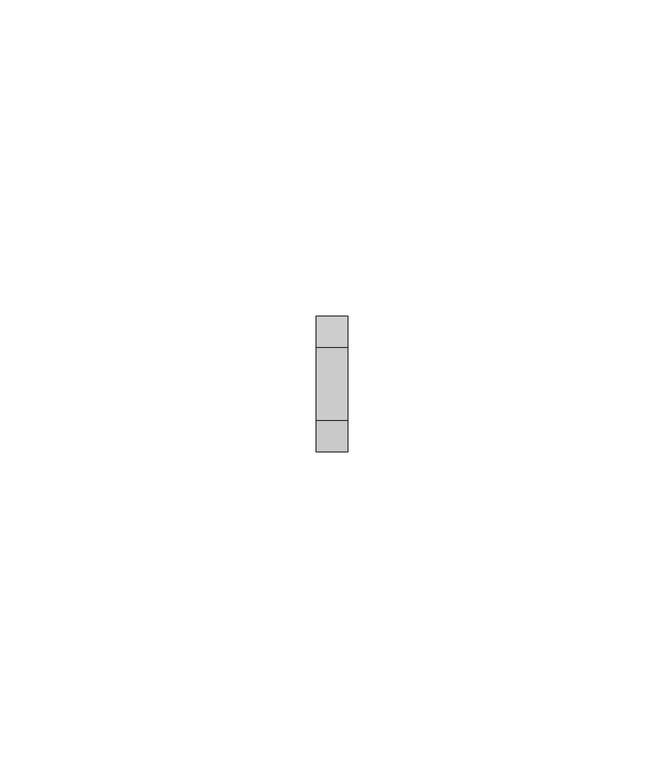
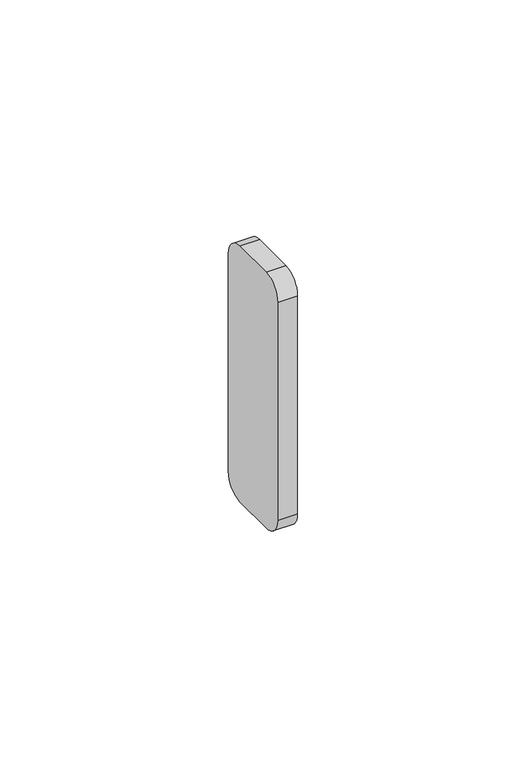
"""IFC4 building model written with IfcOpenShell, lengths in millimetres: proxy geometry, Odbojniki - OPW20R : Odbojniki - OPW20R."""

from ifc_helpers import new_model, si_unit, point, frame, frame_2d, origin, place, context, project, spatial, polyline, circle_curve, trimmed, segment, composite_curve, outline, extrude, source, transform, mapped, element, save


def generic_models_18d6be8e(model_context):
    return source(origin(), model_context, "Body", "SweptSolid", [
        extrude(outline(composite_curve([segment(polyline([(70.3, -44.25), (58.8, -44.25)]), True, "CONTINUOUS"), segment(trimmed(circle_curve(frame_2d((58.8, -39.25)), 5.0), [point((58.8, -44.25))], [point((53.8, -39.25))], False, "CARTESIAN"), True, "CONTINUOUS"), segment(polyline([(53.8, -39.25), (53.8, 19.05)]), True, "CONTINUOUS"), segment(trimmed(circle_curve(frame_2d((58.8, 19.05)), 5.0), [point((53.8, 19.05))], [point((58.8, 24.05))], False, "CARTESIAN"), True, "CONTINUOUS"), segment(polyline([(58.8, 24.05), (70.3, 24.05)]), True, "CONTINUOUS"), segment(trimmed(circle_curve(frame_2d((70.3, 19.05)), 5.0), [point((70.3, 24.05))], [point((75.3, 19.05))], False, "CARTESIAN"), True, "CONTINUOUS"), segment(polyline([(75.3, 19.05), (75.3, -39.25)]), True, "CONTINUOUS"), segment(trimmed(circle_curve(frame_2d((70.3, -39.25)), 5.0), [point((75.3, -39.25))], [point((70.3, -44.25))], False, "CARTESIAN"), True, "CONTINUOUS")], self_intersect=False)), frame((-2.5, 0.0, 0.0), z_axis=(1.0, 0.0, 0.0), x_axis=(0.0, 1.0, 0.0)), (0.0, 0.0, 1.0), 5.0),
    ])


if __name__ == "__main__":
    model = new_model("IFC4")
    model_context = context("Model", 3, world=origin())
    ifc_project = project(units=[si_unit("LENGTHUNIT", "METRE", prefix="MILLI")], contexts=[model_context])
    site = spatial("IfcSite", under=ifc_project)
    building = spatial("IfcBuilding", under=site)
    placement = place(None, origin())
    generic_models_shape = generic_models_18d6be8e(model_context)
    element("IfcBuildingElementProxy", 1, Name="Odbojniki - OPW20R : Odbojniki - OPW20R", ObjectType="Odbojniki - OPW20R : Odbojniki - OPW20R", at=placement, inside=building, context=model_context, shape_type="MappedRepresentation", body=[
        mapped(generic_models_shape, transform((0.0, 0.0, 0.0), x_axis=(1.0, 0.0, 0.0), y_axis=(0.0, 1.0, 0.0), z_axis=(0.0, 0.0, 1.0))),
    ])
    save(model, "model.ifc")
